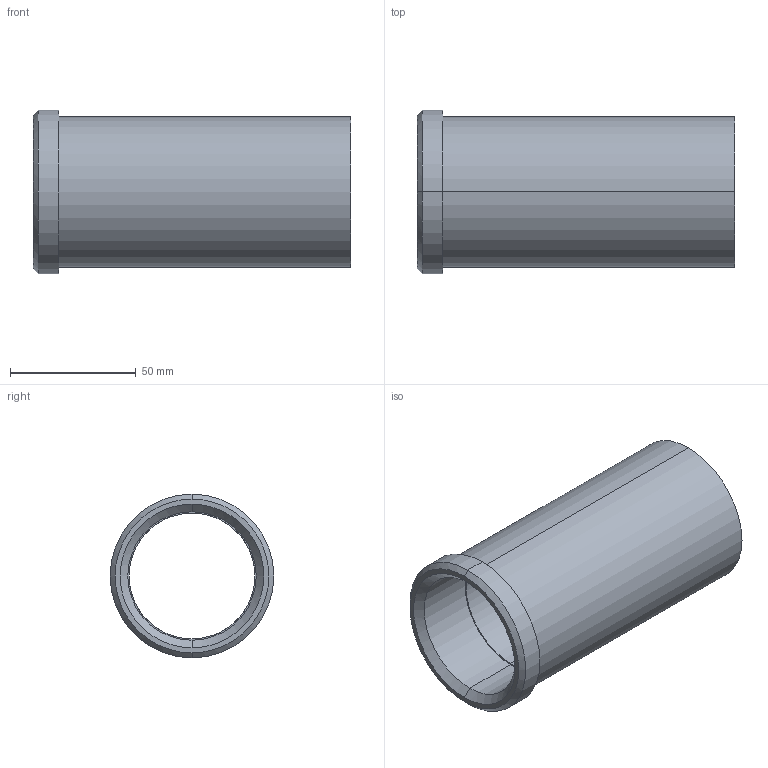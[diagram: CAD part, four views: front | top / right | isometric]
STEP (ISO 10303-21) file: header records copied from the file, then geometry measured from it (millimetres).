
FILE_DESCRIPTION(('CATIA V5 STEP Exchange'),'2;1');
FILE_NAME('C:\Users\Utente\Desktop\IO LAVORO\3D X SITO CF\X SITO\PLASTICA\353\353-50X126.stp','2021-05-14T13:20:11+00:00',('none'),('none'),'CATIA Version 5 Release 20 GA (IN-10)','CATIA V5 STEP AP203','none');
FILE_SCHEMA(('CONFIG_CONTROL_DESIGN'));
Length unit declared in the file: millimetre
Products named in the file (1): 353-50X126
Bounding box: 126 x 65 x 65 mm (x, y, z)
Volume: 110415.9 mm3; surface area: 45843.5 mm2
Topology: 1 solids, 1 shells, 18 faces, 58 edges, 44 vertices
Faces by surface type: cylinder 8, plane 4, cone 4, torus 2
Entity records: 840 total; most frequent: CARTESIAN_POINT 289, ORIENTED_EDGE 116, DIRECTION 82, EDGE_CURVE 58, AXIS2_PLACEMENT_3D 53, VERTEX_POINT 44, CIRCLE 34, EDGE_LOOP 22
